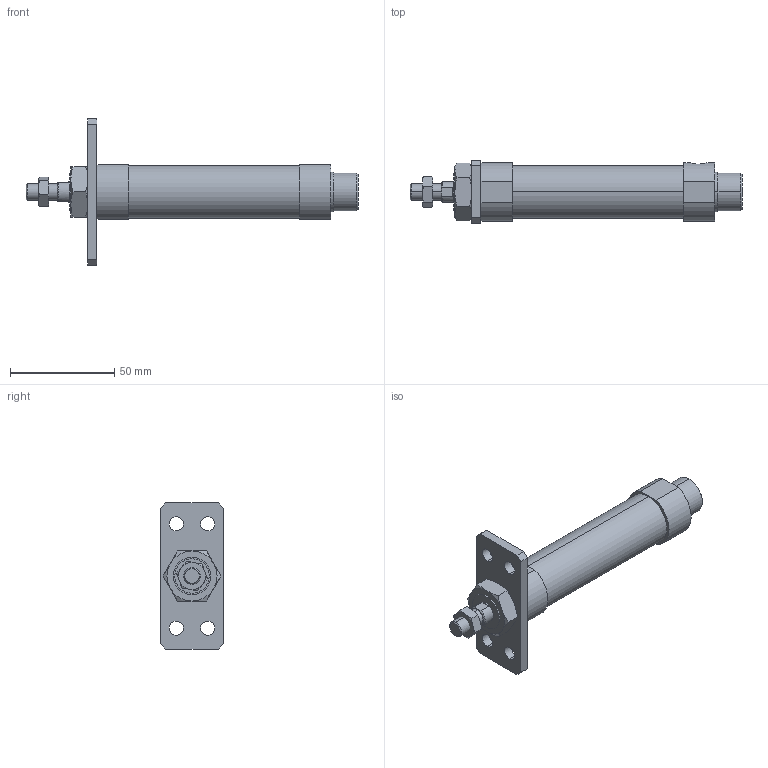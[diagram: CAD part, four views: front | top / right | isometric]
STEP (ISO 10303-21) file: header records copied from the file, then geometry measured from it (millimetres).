
FILE_DESCRIPTION (( 'STEP AP203' ), '1' );
FILE_NAME ('J#1-20-15(25)-A.STEP', '2016-03-08T06:38:54', ( '' ), ( '' ), 'SwSTEP 2.0', 'SolidWorks 2014', '' );
FILE_SCHEMA (( 'CONFIG_CONTROL_DESIGN' ));
Length unit declared in the file: millimetre
Products named in the file (5): J#2-20-A; J#1-20-15(25)-A; J#1-20-15
Assembly tree (4 placements, depth 2):
  J#1-20-15(25)-A
    J#1-20-15
    (unnamed)
    (unnamed)
    J#2-20-A
Bounding box: 159 x 30 x 70 mm (x, y, z)
Volume: 75708 mm3; surface area: 19853.5 mm2
Topology: 4 solids, 4 shells, 109 faces, 246 edges, 154 vertices
Faces by surface type: plane 45, cylinder 34, torus 24, cone 6
Entity records: 3873 total; most frequent: CARTESIAN_POINT 906, DIRECTION 524, ORIENTED_EDGE 492, EDGE_CURVE 246, AXIS2_PLACEMENT_3D 216, VERTEX_POINT 154, EDGE_LOOP 132, ADVANCED_FACE 109
